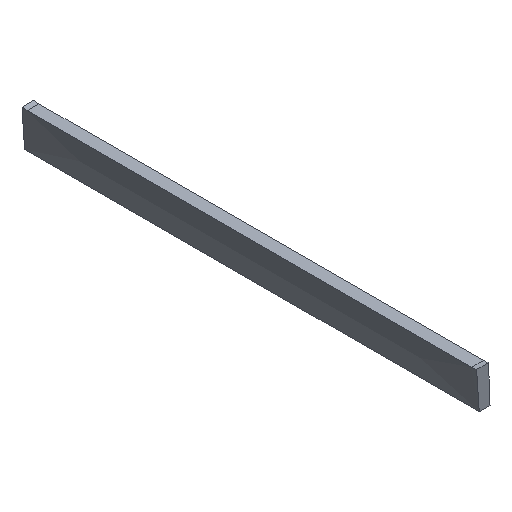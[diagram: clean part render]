
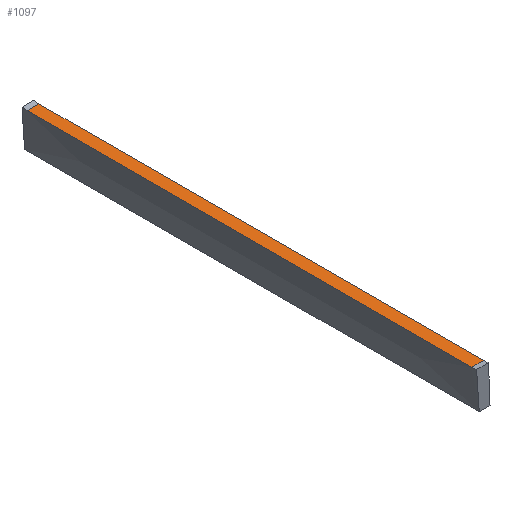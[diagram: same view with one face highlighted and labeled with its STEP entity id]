
A CAD part, isometric view. The second image highlights one B-rep face of the part: STEP entity #1097.
In plain terms, the highlighted planar face has unit normal (0, 0, 1).
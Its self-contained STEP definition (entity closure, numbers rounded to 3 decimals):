
#84 = B_SPLINE_SURFACE_WITH_KNOTS('',8,2,(
    (#85,#86,#87)
    ,(#88,#89,#90)
    ,(#91,#92,#93)
    ,(#94,#95,#96)
    ,(#97,#98,#99)
    ,(#100,#101,#102)
    ,(#103,#104,#105)
    ,(#106,#107,#108)
    ,(#109,#110,#111
    )),.UNSPECIFIED.,.F.,.F.,.F.,(9,9),(3,3),(6.,7.),(0.,1.),
  .PIECEWISE_BEZIER_KNOTS.);
#85 = CARTESIAN_POINT('',(-26.,188.,20.));
#86 = CARTESIAN_POINT('',(-31.31,189.072,61.102)
  );
#87 = CARTESIAN_POINT('',(0.,182.,96.));
#88 = CARTESIAN_POINT('',(-26.,141.,20.));
#89 = CARTESIAN_POINT('',(-31.31,141.804,61.102
    ));
#90 = CARTESIAN_POINT('',(0.,136.5,96.));
#91 = CARTESIAN_POINT('',(-26.,94.,20.));
#92 = CARTESIAN_POINT('',(-31.31,94.536,61.102)
  );
#93 = CARTESIAN_POINT('',(0.,91.,96.));
#94 = CARTESIAN_POINT('',(-26.,47.,20.));
#95 = CARTESIAN_POINT('',(-31.31,47.268,61.102
    ));
#96 = CARTESIAN_POINT('',(0.,45.5,96.));
#97 = CARTESIAN_POINT('',(-26.,0.,20.));
#98 = CARTESIAN_POINT('',(-31.31,0.,
    61.102));
#99 = CARTESIAN_POINT('',(0.,0.,96.));
#100 = CARTESIAN_POINT('',(-26.,-47.,20.));
#101 = CARTESIAN_POINT('',(-31.31,-47.268,
    61.102));
#102 = CARTESIAN_POINT('',(0.,-45.5,96.));
#103 = CARTESIAN_POINT('',(-26.,-94.,20.));
#104 = CARTESIAN_POINT('',(-31.31,-94.536,
    61.102));
#105 = CARTESIAN_POINT('',(0.,-91.,96.));
#106 = CARTESIAN_POINT('',(-26.,-141.,20.));
#107 = CARTESIAN_POINT('',(-31.31,-141.804,
    61.102));
#108 = CARTESIAN_POINT('',(0.,-136.5,96.));
#109 = CARTESIAN_POINT('',(-26.,-188.,20.));
#110 = CARTESIAN_POINT('',(-31.31,-189.072,
    61.102));
#111 = CARTESIAN_POINT('',(0.,-182.,96.));
#165 = B_SPLINE_SURFACE_WITH_KNOTS('',8,2,(
    (#166,#167,#168)
    ,(#169,#170,#171)
    ,(#172,#173,#174)
    ,(#175,#176,#177)
    ,(#178,#179,#180)
    ,(#181,#182,#183)
    ,(#184,#185,#186)
    ,(#187,#188,#189)
    ,(#190,#191,#192
    )),.UNSPECIFIED.,.F.,.F.,.F.,(9,9),(3,3),(6.,7.),(0.,1.),
  .PIECEWISE_BEZIER_KNOTS.);
#166 = CARTESIAN_POINT('',(-22.5,187.5,17.));
#167 = CARTESIAN_POINT('',(-27.823,188.574,
    60.992));
#168 = CARTESIAN_POINT('',(3.5,181.5,99.));
#169 = CARTESIAN_POINT('',(-22.5,140.625,17.));
#170 = CARTESIAN_POINT('',(-27.823,141.431,
    60.992));
#171 = CARTESIAN_POINT('',(3.5,136.125,99.));
#172 = CARTESIAN_POINT('',(-22.5,93.75,17.));
#173 = CARTESIAN_POINT('',(-27.823,94.287,
    60.992));
#174 = CARTESIAN_POINT('',(3.5,90.75,99.));
#175 = CARTESIAN_POINT('',(-22.5,46.875,17.));
#176 = CARTESIAN_POINT('',(-27.823,47.144,
    60.992));
#177 = CARTESIAN_POINT('',(3.5,45.375,99.));
#178 = CARTESIAN_POINT('',(-22.5,0.,17.));
#179 = CARTESIAN_POINT('',(-27.823,0.,
    60.992));
#180 = CARTESIAN_POINT('',(3.5,0.,99.));
#181 = CARTESIAN_POINT('',(-22.5,-46.875,17.));
#182 = CARTESIAN_POINT('',(-27.823,-47.144,
    60.992));
#183 = CARTESIAN_POINT('',(3.5,-45.375,99.));
#184 = CARTESIAN_POINT('',(-22.5,-93.75,17.));
#185 = CARTESIAN_POINT('',(-27.823,-94.287,
    60.992));
#186 = CARTESIAN_POINT('',(3.5,-90.75,99.));
#187 = CARTESIAN_POINT('',(-22.5,-140.625,17.));
#188 = CARTESIAN_POINT('',(-27.823,-141.431,
    60.992));
#189 = CARTESIAN_POINT('',(3.5,-136.125,99.));
#190 = CARTESIAN_POINT('',(-22.5,-187.5,17.));
#191 = CARTESIAN_POINT('',(-27.823,-188.574,
    60.992));
#192 = CARTESIAN_POINT('',(3.5,-181.5,99.));
#374 = CYLINDRICAL_SURFACE('',#375,7.);
#375 = AXIS2_PLACEMENT_3D('',#376,#377,#378);
#376 = CARTESIAN_POINT('',(-80.,65.5,38.));
#377 = DIRECTION('',(1.,0.,0.));
#378 = DIRECTION('',(0.,0.,-1.));
#518 = CYLINDRICAL_SURFACE('',#519,7.);
#519 = AXIS2_PLACEMENT_3D('',#520,#521,#522);
#520 = CARTESIAN_POINT('',(-80.,-65.5,38.));
#521 = DIRECTION('',(1.,0.,0.));
#522 = DIRECTION('',(0.,0.,-1.));
#535 = VERTEX_POINT('',#536);
#536 = CARTESIAN_POINT('',(-23.264,-65.5,31.));
#566 = EDGE_CURVE('',#535,#567,#569,.T.);
#567 = VERTEX_POINT('',#568);
#568 = CARTESIAN_POINT('',(-23.264,65.5,31.));
#569 = SURFACE_CURVE('',#570,(#576,#585),.PCURVE_S1.);
#570 = B_SPLINE_CURVE_WITH_KNOTS('',4,(#571,#572,#573,#574,#575),
  .UNSPECIFIED.,.F.,.F.,(5,5),(0.,1.),.PIECEWISE_BEZIER_KNOTS.);
#571 = CARTESIAN_POINT('',(-23.264,-65.5,31.));
#572 = CARTESIAN_POINT('',(-23.264,-32.75,31.));
#573 = CARTESIAN_POINT('',(-23.264,0.,31.));
#574 = CARTESIAN_POINT('',(-23.264,32.75,31.));
#575 = CARTESIAN_POINT('',(-23.264,65.5,31.));
#576 = PCURVE('',#165,#577);
#577 = DEFINITIONAL_REPRESENTATION('',(#578),#584);
#578 = B_SPLINE_CURVE_WITH_KNOTS('',4,(#579,#580,#581,#582,#583),
  .UNSPECIFIED.,.F.,.F.,(5,5),(0.,1.),.PIECEWISE_BEZIER_KNOTS.);
#579 = CARTESIAN_POINT('',(6.675,0.161));
#580 = CARTESIAN_POINT('',(6.587,0.161));
#581 = CARTESIAN_POINT('',(6.5,0.161));
#582 = CARTESIAN_POINT('',(6.413,0.161));
#583 = CARTESIAN_POINT('',(6.325,0.161));
#584 = ( GEOMETRIC_REPRESENTATION_CONTEXT(2) 
PARAMETRIC_REPRESENTATION_CONTEXT() REPRESENTATION_CONTEXT('2D SPACE',''
  ) );
#585 = PCURVE('',#586,#591);
#586 = PLANE('',#587);
#587 = AXIS2_PLACEMENT_3D('',#588,#589,#590);
#588 = CARTESIAN_POINT('',(-80.,-72.5,31.));
#589 = DIRECTION('',(0.,0.,1.));
#590 = DIRECTION('',(0.,1.,0.));
#591 = DEFINITIONAL_REPRESENTATION('',(#592),#598);
#592 = B_SPLINE_CURVE_WITH_KNOTS('',4,(#593,#594,#595,#596,#597),
  .UNSPECIFIED.,.F.,.F.,(5,5),(0.,1.),.PIECEWISE_BEZIER_KNOTS.);
#593 = CARTESIAN_POINT('',(7.,-56.736));
#594 = CARTESIAN_POINT('',(39.75,-56.736));
#595 = CARTESIAN_POINT('',(72.5,-56.736));
#596 = CARTESIAN_POINT('',(105.25,-56.736));
#597 = CARTESIAN_POINT('',(138.,-56.736));
#598 = ( GEOMETRIC_REPRESENTATION_CONTEXT(2) 
PARAMETRIC_REPRESENTATION_CONTEXT() REPRESENTATION_CONTEXT('2D SPACE',''
  ) );
#896 = VERTEX_POINT('',#897);
#897 = CARTESIAN_POINT('',(-26.766,-65.5,31.));
#927 = EDGE_CURVE('',#896,#928,#930,.T.);
#928 = VERTEX_POINT('',#929);
#929 = CARTESIAN_POINT('',(-26.766,65.5,31.));
#930 = SURFACE_CURVE('',#931,(#937,#946),.PCURVE_S1.);
#931 = B_SPLINE_CURVE_WITH_KNOTS('',4,(#932,#933,#934,#935,#936),
  .UNSPECIFIED.,.F.,.F.,(5,5),(0.,1.),.PIECEWISE_BEZIER_KNOTS.);
#932 = CARTESIAN_POINT('',(-26.766,-65.5,31.));
#933 = CARTESIAN_POINT('',(-26.766,-32.75,31.));
#934 = CARTESIAN_POINT('',(-26.766,0.,31.));
#935 = CARTESIAN_POINT('',(-26.766,32.75,31.));
#936 = CARTESIAN_POINT('',(-26.766,65.5,31.));
#937 = PCURVE('',#84,#938);
#938 = DEFINITIONAL_REPRESENTATION('',(#939),#945);
#939 = B_SPLINE_CURVE_WITH_KNOTS('',4,(#940,#941,#942,#943,#944),
  .UNSPECIFIED.,.F.,.F.,(5,5),(0.,1.),.PIECEWISE_BEZIER_KNOTS.);
#940 = CARTESIAN_POINT('',(6.674,0.135));
#941 = CARTESIAN_POINT('',(6.587,0.135));
#942 = CARTESIAN_POINT('',(6.5,0.135));
#943 = CARTESIAN_POINT('',(6.413,0.135));
#944 = CARTESIAN_POINT('',(6.326,0.135));
#945 = ( GEOMETRIC_REPRESENTATION_CONTEXT(2) 
PARAMETRIC_REPRESENTATION_CONTEXT() REPRESENTATION_CONTEXT('2D SPACE',''
  ) );
#946 = PCURVE('',#586,#947);
#947 = DEFINITIONAL_REPRESENTATION('',(#948),#954);
#948 = B_SPLINE_CURVE_WITH_KNOTS('',4,(#949,#950,#951,#952,#953),
  .UNSPECIFIED.,.F.,.F.,(5,5),(0.,1.),.PIECEWISE_BEZIER_KNOTS.);
#949 = CARTESIAN_POINT('',(7.,-53.234));
#950 = CARTESIAN_POINT('',(39.75,-53.234));
#951 = CARTESIAN_POINT('',(72.5,-53.234));
#952 = CARTESIAN_POINT('',(105.25,-53.234));
#953 = CARTESIAN_POINT('',(138.,-53.234));
#954 = ( GEOMETRIC_REPRESENTATION_CONTEXT(2) 
PARAMETRIC_REPRESENTATION_CONTEXT() REPRESENTATION_CONTEXT('2D SPACE',''
  ) );
#1072 = EDGE_CURVE('',#928,#567,#1073,.T.);
#1073 = SURFACE_CURVE('',#1074,(#1078,#1085),.PCURVE_S1.);
#1074 = LINE('',#1075,#1076);
#1075 = CARTESIAN_POINT('',(-80.,65.5,31.));
#1076 = VECTOR('',#1077,1.);
#1077 = DIRECTION('',(1.,0.,0.));
#1078 = PCURVE('',#374,#1079);
#1079 = DEFINITIONAL_REPRESENTATION('',(#1080),#1084);
#1080 = LINE('',#1081,#1082);
#1081 = CARTESIAN_POINT('',(0.,0.));
#1082 = VECTOR('',#1083,1.);
#1083 = DIRECTION('',(0.,1.));
#1084 = ( GEOMETRIC_REPRESENTATION_CONTEXT(2) 
PARAMETRIC_REPRESENTATION_CONTEXT() REPRESENTATION_CONTEXT('2D SPACE',''
  ) );
#1085 = PCURVE('',#586,#1086);
#1086 = DEFINITIONAL_REPRESENTATION('',(#1087),#1091);
#1087 = LINE('',#1088,#1089);
#1088 = CARTESIAN_POINT('',(138.,0.));
#1089 = VECTOR('',#1090,1.);
#1090 = DIRECTION('',(0.,-1.));
#1091 = ( GEOMETRIC_REPRESENTATION_CONTEXT(2) 
PARAMETRIC_REPRESENTATION_CONTEXT() REPRESENTATION_CONTEXT('2D SPACE',''
  ) );
#1097 = ADVANCED_FACE('',(#1098),#586,.T.);
#1098 = FACE_BOUND('',#1099,.T.);
#1099 = EDGE_LOOP('',(#1100,#1101,#1122,#1123));
#1100 = ORIENTED_EDGE('',*,*,#927,.F.);
#1101 = ORIENTED_EDGE('',*,*,#1102,.T.);
#1102 = EDGE_CURVE('',#896,#535,#1103,.T.);
#1103 = SURFACE_CURVE('',#1104,(#1108,#1115),.PCURVE_S1.);
#1104 = LINE('',#1105,#1106);
#1105 = CARTESIAN_POINT('',(-80.,-65.5,31.));
#1106 = VECTOR('',#1107,1.);
#1107 = DIRECTION('',(1.,0.,0.));
#1108 = PCURVE('',#586,#1109);
#1109 = DEFINITIONAL_REPRESENTATION('',(#1110),#1114);
#1110 = LINE('',#1111,#1112);
#1111 = CARTESIAN_POINT('',(7.,0.));
#1112 = VECTOR('',#1113,1.);
#1113 = DIRECTION('',(0.,-1.));
#1114 = ( GEOMETRIC_REPRESENTATION_CONTEXT(2) 
PARAMETRIC_REPRESENTATION_CONTEXT() REPRESENTATION_CONTEXT('2D SPACE',''
  ) );
#1115 = PCURVE('',#518,#1116);
#1116 = DEFINITIONAL_REPRESENTATION('',(#1117),#1121);
#1117 = LINE('',#1118,#1119);
#1118 = CARTESIAN_POINT('',(6.283,0.));
#1119 = VECTOR('',#1120,1.);
#1120 = DIRECTION('',(-0.,1.));
#1121 = ( GEOMETRIC_REPRESENTATION_CONTEXT(2) 
PARAMETRIC_REPRESENTATION_CONTEXT() REPRESENTATION_CONTEXT('2D SPACE',''
  ) );
#1122 = ORIENTED_EDGE('',*,*,#566,.T.);
#1123 = ORIENTED_EDGE('',*,*,#1072,.F.);
